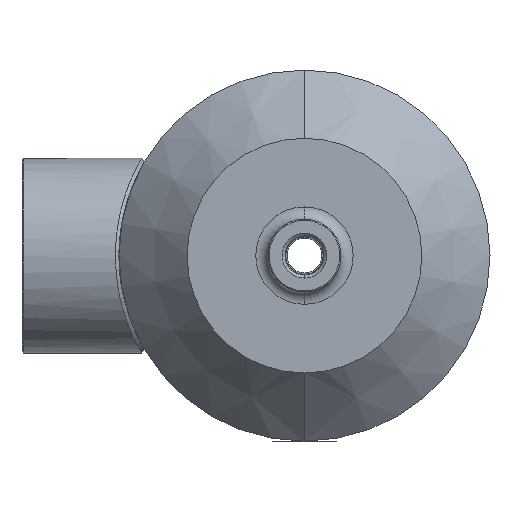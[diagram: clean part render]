
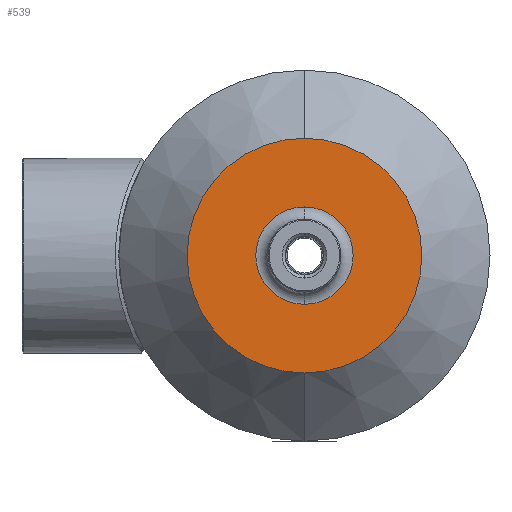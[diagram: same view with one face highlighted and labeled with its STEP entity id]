
A CAD part, front view. The second image highlights one B-rep face of the part: STEP entity #539.
In plain terms, the highlighted planar face has unit normal (0, -1, 0).
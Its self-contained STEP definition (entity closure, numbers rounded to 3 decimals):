
#35 = FACE_OUTER_BOUND ( 'NONE', #699, .T. ) ;
#99 = ORIENTED_EDGE ( 'NONE', *, *, #556, .T. ) ;
#106 = CIRCLE ( 'NONE', #819, 20. ) ;
#247 = AXIS2_PLACEMENT_3D ( 'NONE', #1894, #2754, #553 ) ;
#285 = ORIENTED_EDGE ( 'NONE', *, *, #415, .T. ) ;
#415 = EDGE_CURVE ( 'NONE', #1673, #1047, #616, .T. ) ;
#437 = AXIS2_PLACEMENT_3D ( 'NONE', #1456, #1030, #1478 ) ;
#539 = ADVANCED_FACE ( 'NONE', ( #35, #1214 ), #1467, .F. ) ;
#553 = DIRECTION ( 'NONE',  ( 0., 0., 1. ) ) ;
#556 = EDGE_CURVE ( 'NONE', #1612, #2506, #2422, .T. ) ;
#616 = CIRCLE ( 'NONE', #1999, 20. ) ;
#699 = EDGE_LOOP ( 'NONE', ( #99, #2457 ) ) ;
#722 = AXIS2_PLACEMENT_3D ( 'NONE', #1870, #2590, #986 ) ;
#819 = AXIS2_PLACEMENT_3D ( 'NONE', #1831, #1164, #2734 ) ;
#960 = ORIENTED_EDGE ( 'NONE', *, *, #1550, .T. ) ;
#986 = DIRECTION ( 'NONE',  ( 0., 0., 1. ) ) ;
#1020 = EDGE_CURVE ( 'NONE', #2506, #1612, #1161, .T. ) ;
#1030 = DIRECTION ( 'NONE',  ( 0., -1., 0. ) ) ;
#1047 = VERTEX_POINT ( 'NONE', #1287 ) ;
#1161 = CIRCLE ( 'NONE', #437, 48.2 ) ;
#1164 = DIRECTION ( 'NONE',  ( 0., 1., 0. ) ) ;
#1168 = EDGE_LOOP ( 'NONE', ( #285, #960 ) ) ;
#1214 = FACE_BOUND ( 'NONE', #1168, .T. ) ;
#1287 = CARTESIAN_POINT ( 'NONE',  ( 0., -33., -20. ) ) ;
#1334 = CARTESIAN_POINT ( 'NONE',  ( 0., -33., 0. ) ) ;
#1399 = DIRECTION ( 'NONE',  ( 0., 0., 1. ) ) ;
#1456 = CARTESIAN_POINT ( 'NONE',  ( 0., -33., 0. ) ) ;
#1467 = PLANE ( 'NONE',  #722 ) ;
#1478 = DIRECTION ( 'NONE',  ( 0., 0., 1. ) ) ;
#1550 = EDGE_CURVE ( 'NONE', #1047, #1673, #106, .T. ) ;
#1551 = CARTESIAN_POINT ( 'NONE',  ( 0., -33., -48.2 ) ) ;
#1612 = VERTEX_POINT ( 'NONE', #1689 ) ;
#1673 = VERTEX_POINT ( 'NONE', #2822 ) ;
#1689 = CARTESIAN_POINT ( 'NONE',  ( 0., -33., 48.2 ) ) ;
#1790 = DIRECTION ( 'NONE',  ( 0., 1., 0. ) ) ;
#1831 = CARTESIAN_POINT ( 'NONE',  ( 0., -33., 0. ) ) ;
#1870 = CARTESIAN_POINT ( 'NONE',  ( 76.2, -33., 0. ) ) ;
#1894 = CARTESIAN_POINT ( 'NONE',  ( 0., -33., 0. ) ) ;
#1999 = AXIS2_PLACEMENT_3D ( 'NONE', #1334, #1790, #1399 ) ;
#2422 = CIRCLE ( 'NONE', #247, 48.2 ) ;
#2457 = ORIENTED_EDGE ( 'NONE', *, *, #1020, .T. ) ;
#2506 = VERTEX_POINT ( 'NONE', #1551 ) ;
#2590 = DIRECTION ( 'NONE',  ( 0., 1., 0. ) ) ;
#2734 = DIRECTION ( 'NONE',  ( 0., 0., 1. ) ) ;
#2754 = DIRECTION ( 'NONE',  ( 0., -1., 0. ) ) ;
#2822 = CARTESIAN_POINT ( 'NONE',  ( 0., -33., 20. ) ) ;
